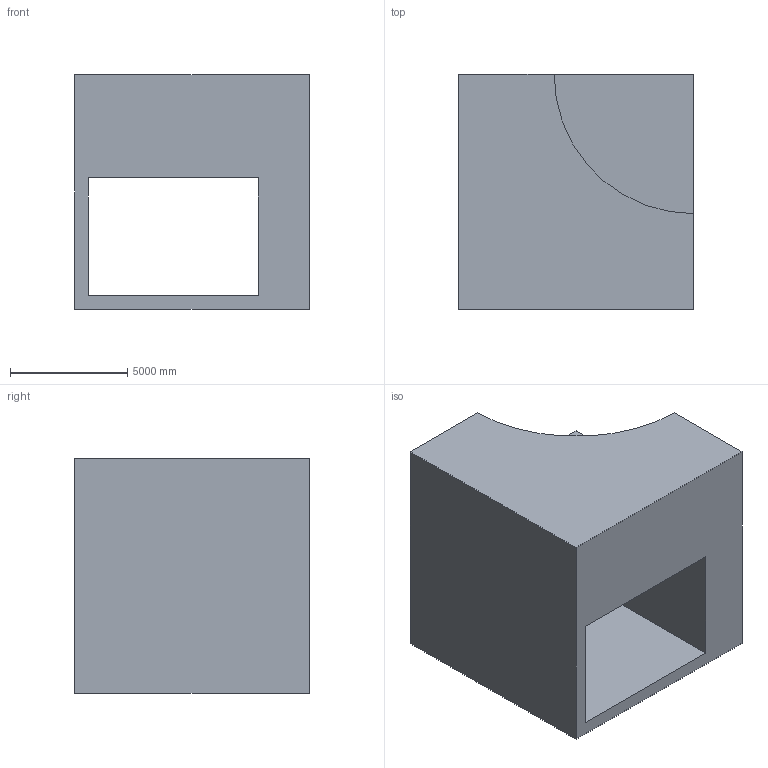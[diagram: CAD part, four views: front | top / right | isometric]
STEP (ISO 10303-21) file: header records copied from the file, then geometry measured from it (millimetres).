
FILE_DESCRIPTION (( 'STEP AP203' ), '1' );
FILE_NAME ('12.STEP', '2022-07-28T13:24:13', ( 'user' ), ( '' ), 'SwSTEP 2.0', 'SolidWorks 2021', '' );
FILE_SCHEMA (( 'CONFIG_CONTROL_DESIGN' ));
Length unit declared in the file: centimetre
Products named in the file (1): 12
Bounding box: 10000 x 10000 x 10000 mm (x, y, z)
Volume: 527544787973.6 mm3; surface area: 762685853 mm2
Topology: 1 solids, 1 shells, 12 faces, 30 edges, 20 vertices
Faces by surface type: plane 11, cylinder 1
Entity records: 437 total; most frequent: CARTESIAN_POINT 63, ORIENTED_EDGE 60, DIRECTION 58, EDGE_CURVE 30, LINE 28, VECTOR 28, VERTEX_POINT 20, AXIS2_PLACEMENT_3D 15
